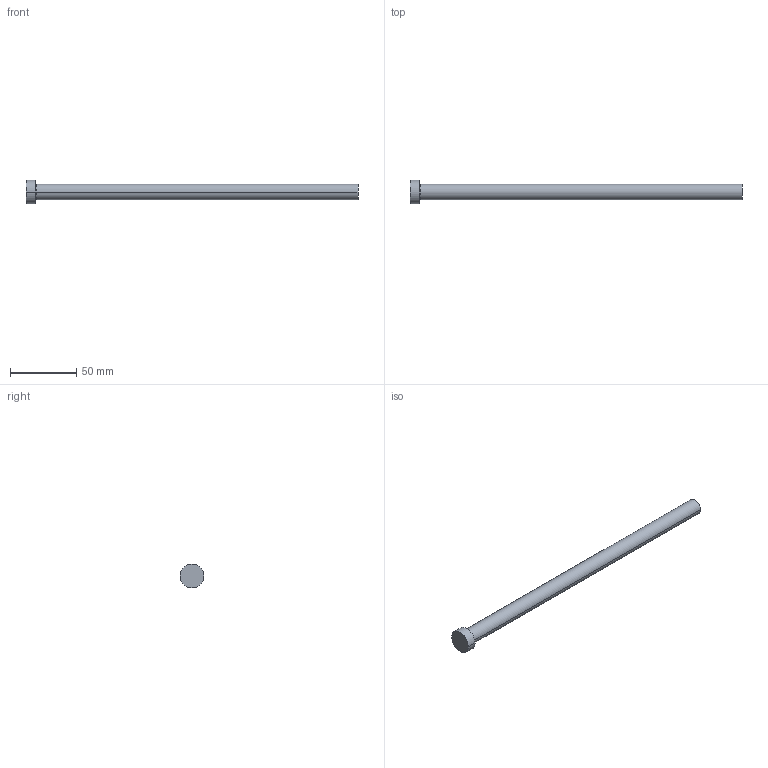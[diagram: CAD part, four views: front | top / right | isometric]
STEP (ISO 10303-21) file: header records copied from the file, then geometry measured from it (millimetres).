
FILE_DESCRIPTION (( 'STEP AP214' ), '1' );
FILE_NAME ('A-12x250.STEP', '2020-05-29T16:13:35', ( 'August' ), ( '' ), 'SwSTEP 2.0', 'SolidWorks 2018', '' );
FILE_SCHEMA (( 'AUTOMOTIVE_DESIGN' ));
Length unit declared in the file: millimetre
Products named in the file (1): A-12x250
Bounding box: 250 x 18 x 18 mm (x, y, z)
Volume: 29269.3 mm3; surface area: 10053 mm2
Topology: 1 solids, 1 shells, 9 faces, 16 edges, 10 vertices
Faces by surface type: cylinder 4, plane 3, torus 2
Entity records: 260 total; most frequent: DIRECTION 48, CARTESIAN_POINT 36, ORIENTED_EDGE 32, AXIS2_PLACEMENT_3D 22, EDGE_CURVE 16, CIRCLE 12, VERTEX_POINT 10, EDGE_LOOP 10
